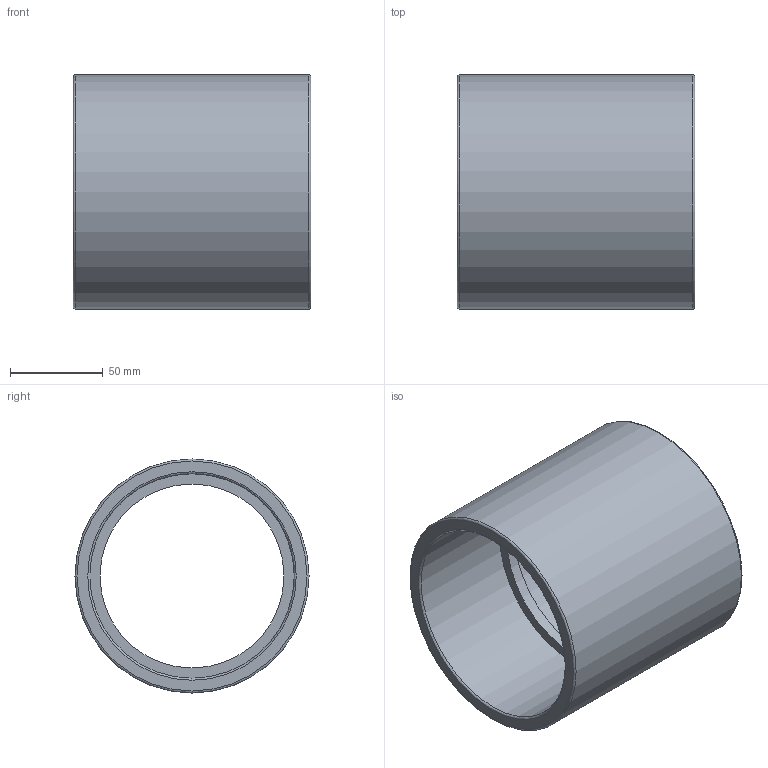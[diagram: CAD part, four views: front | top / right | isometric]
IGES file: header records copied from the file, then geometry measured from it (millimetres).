
Global section: file name: 050100110.ipt; native system: Autodesk Inventor 2015; preprocessor: unknown; author: KIM; date: 20171207.164016; units: millimetre
Bounding box: 128 x 126 x 126 mm (x, y, z)
Volume: 390053.7 mm3; surface area: 103536.4 mm2
Topology: 1 solids, 1 shells, 12 faces, 34 edges, 26 vertices
Faces by surface type: revolution 7, plane 4, cylinder 1
Full cylindrical faces by diameter (mm): 126 x1
